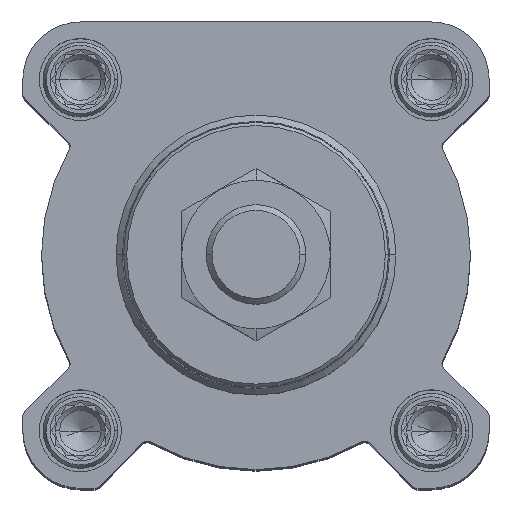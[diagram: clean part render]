
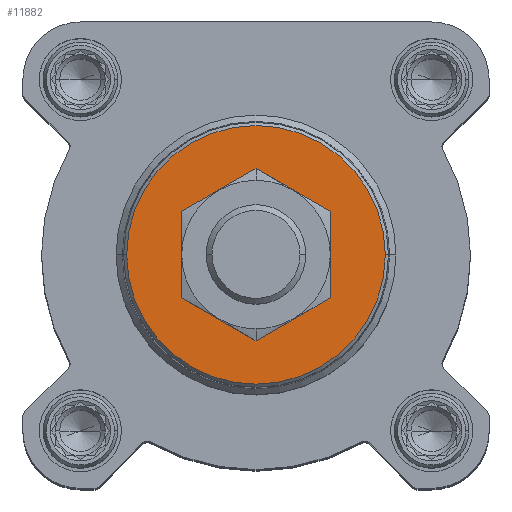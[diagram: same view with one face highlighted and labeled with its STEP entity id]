
A CAD part, top view. The second image highlights one B-rep face of the part: STEP entity #11882.
In plain terms, the highlighted planar face has unit normal (0, 0, 1).
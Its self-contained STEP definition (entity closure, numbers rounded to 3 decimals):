
#266 = FACE_OUTER_BOUND ( 'NONE', #2732, .T. ) ;
#354 = DIRECTION ( 'NONE',  ( -1., 0., 0. ) ) ;
#556 = EDGE_CURVE ( 'NONE', #13741, #14143, #19207, .T. ) ;
#1004 = DIRECTION ( 'NONE',  ( -1., 0., 0. ) ) ;
#1412 = ORIENTED_EDGE ( 'NONE', *, *, #7593, .F. ) ;
#1471 = CIRCLE ( 'NONE', #6312, 10. ) ;
#2732 = EDGE_LOOP ( 'NONE', ( #14899, #1412 ) ) ;
#3598 = CARTESIAN_POINT ( 'NONE',  ( -20.799, 0., 27. ) ) ;
#3811 = DIRECTION ( 'NONE',  ( 0., 0., -1. ) ) ;
#4068 = CIRCLE ( 'NONE', #12463, 20.799 ) ;
#4598 = CARTESIAN_POINT ( 'NONE',  ( 0., 0., 27. ) ) ;
#5603 = EDGE_CURVE ( 'NONE', #14143, #13741, #1471, .T. ) ;
#6312 = AXIS2_PLACEMENT_3D ( 'NONE', #4598, #15305, #15516 ) ;
#6428 = FACE_BOUND ( 'NONE', #19360, .T. ) ;
#6520 = CARTESIAN_POINT ( 'NONE',  ( 0., 0., 27. ) ) ;
#7157 = CARTESIAN_POINT ( 'NONE',  ( 0., 0., 27. ) ) ;
#7185 = AXIS2_PLACEMENT_3D ( 'NONE', #13143, #17862, #1004 ) ;
#7592 = CARTESIAN_POINT ( 'NONE',  ( -10., 0., 27. ) ) ;
#7593 = EDGE_CURVE ( 'NONE', #19928, #13058, #4068, .T. ) ;
#7848 = AXIS2_PLACEMENT_3D ( 'NONE', #6520, #3811, #12789 ) ;
#8498 = CIRCLE ( 'NONE', #7185, 20.799 ) ;
#9660 = CARTESIAN_POINT ( 'NONE',  ( 20.799, 0., 27. ) ) ;
#11065 = PLANE ( 'NONE',  #7848 ) ;
#11145 = EDGE_CURVE ( 'NONE', #13058, #19928, #8498, .T. ) ;
#11882 = ADVANCED_FACE ( 'NONE', ( #266, #6428 ), #11065, .F. ) ;
#12463 = AXIS2_PLACEMENT_3D ( 'NONE', #7157, #13330, #19479 ) ;
#12789 = DIRECTION ( 'NONE',  ( 0., -1., 0. ) ) ;
#13058 = VERTEX_POINT ( 'NONE', #3598 ) ;
#13143 = CARTESIAN_POINT ( 'NONE',  ( 0., 0., 27. ) ) ;
#13330 = DIRECTION ( 'NONE',  ( 0., 0., -1. ) ) ;
#13741 = VERTEX_POINT ( 'NONE', #7592 ) ;
#13896 = DIRECTION ( 'NONE',  ( 0., 0., -1. ) ) ;
#14143 = VERTEX_POINT ( 'NONE', #15975 ) ;
#14899 = ORIENTED_EDGE ( 'NONE', *, *, #11145, .F. ) ;
#15305 = DIRECTION ( 'NONE',  ( 0., 0., -1. ) ) ;
#15516 = DIRECTION ( 'NONE',  ( -1., 0., 0. ) ) ;
#15716 = CARTESIAN_POINT ( 'NONE',  ( 0., 0., 27. ) ) ;
#15975 = CARTESIAN_POINT ( 'NONE',  ( 10., 0., 27. ) ) ;
#15982 = AXIS2_PLACEMENT_3D ( 'NONE', #15716, #13896, #354 ) ;
#16170 = ORIENTED_EDGE ( 'NONE', *, *, #556, .T. ) ;
#17862 = DIRECTION ( 'NONE',  ( 0., 0., -1. ) ) ;
#18056 = ORIENTED_EDGE ( 'NONE', *, *, #5603, .T. ) ;
#19207 = CIRCLE ( 'NONE', #15982, 10. ) ;
#19360 = EDGE_LOOP ( 'NONE', ( #16170, #18056 ) ) ;
#19479 = DIRECTION ( 'NONE',  ( -1., 0., 0. ) ) ;
#19928 = VERTEX_POINT ( 'NONE', #9660 ) ;
